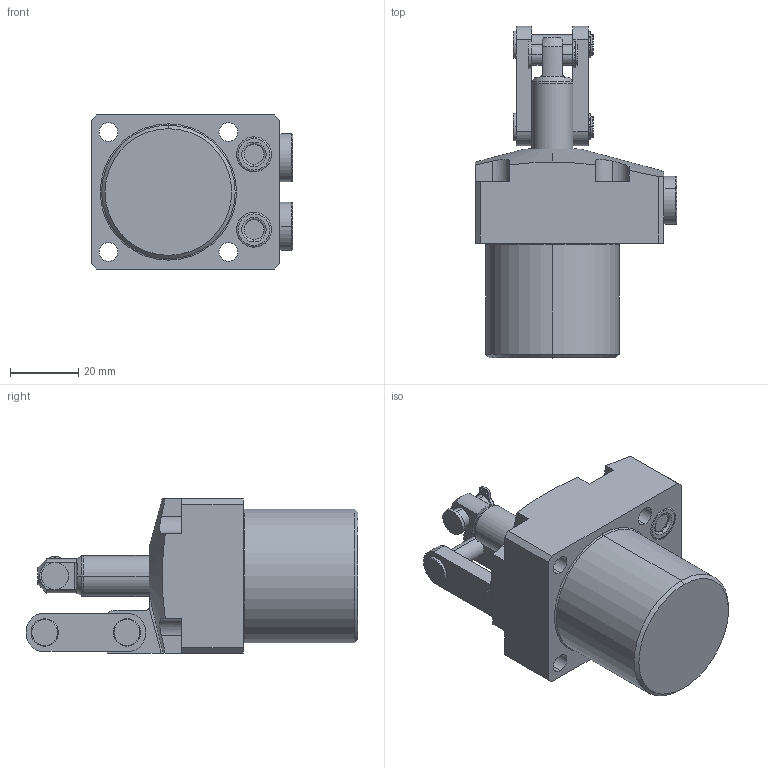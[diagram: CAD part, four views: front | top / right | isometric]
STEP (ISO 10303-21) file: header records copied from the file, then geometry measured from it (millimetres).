
FILE_DESCRIPTION(/* description */ (''),/* implementation_level */ '2;1');
FILE_NAME(/* name */ 'TPC02-R.stp',/* time_stamp */ '2025-01-05T10:34:02+08:00',/* author */ (''),/* organization */ (''),/* preprocessor_version */ 'ST-DEVELOPER v16.7',/* originating_system */ 'SIEMENS PLM Software NX 12.0',/* authorisation */ '');
FILE_SCHEMA (('AUTOMOTIVE_DESIGN { 1 0 10303 214 3 1 1 1 }'));
Length unit declared in the file: millimetre
Products named in the file (5): TPC02-R-01; TPC02-R-02; TPC02-R-03; TPC02-R-04; TPC02-R_stp
Assembly tree (5 placements, depth 2):
  TPC02-R_stp
    TPC02-R-04  x2
    TPC02-R-03
    TPC02-R-02
    TPC02-R-01
Bounding box: 58.8 x 96.98 x 45 mm (x, y, z)
Volume: 104235.4 mm3; surface area: 23180.5 mm2
Topology: 5 solids, 7 shells, 293 faces, 698 edges, 442 vertices
Faces by surface type: cylinder 120, plane 117, torus 34, cone 20, extrusion 2
Entity records: 8250 total; most frequent: CARTESIAN_POINT 1588, DIRECTION 1462, ORIENTED_EDGE 1304, EDGE_CURVE 652, AXIS2_PLACEMENT_3D 580, VERTEX_POINT 414, EDGE_LOOP 312, CIRCLE 305
